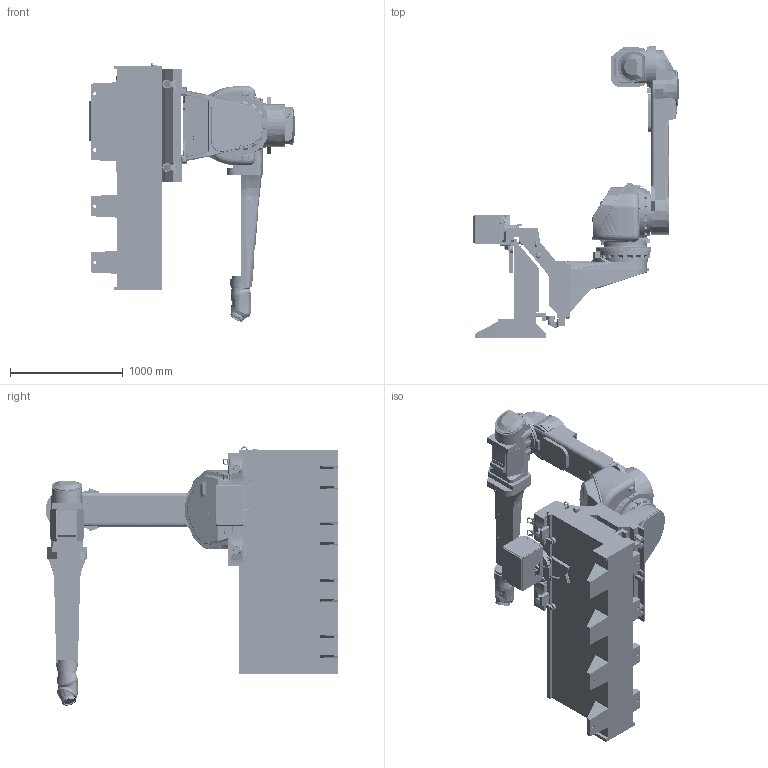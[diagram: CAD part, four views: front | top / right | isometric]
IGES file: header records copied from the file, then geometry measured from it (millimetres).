
Start section: SolidWorks IGES file using analytic representation for surfaces
Global section: file name: G:\ABB Robot Models\CAD_SolidWorks\IRB5500-23\IGES\IRB5500-23__rev00_IRC5P_IGES_C\IRB5500-23_rev00.IGS; native system: SolidWorks 2016; preprocessor: SolidWorks 2016; author: Noahate; date: 180725.115840; units: millimetre
Bounding box: 1825.39 x 2600 x 2303.36 mm (x, y, z)
Surface area: 22664781 mm2 (no closed solid volume)
Topology: 0 solids, 0 shells, 8740 faces, 143786 edges, 143601 vertices
Faces by surface type: bspline 4771, revolution 3969
